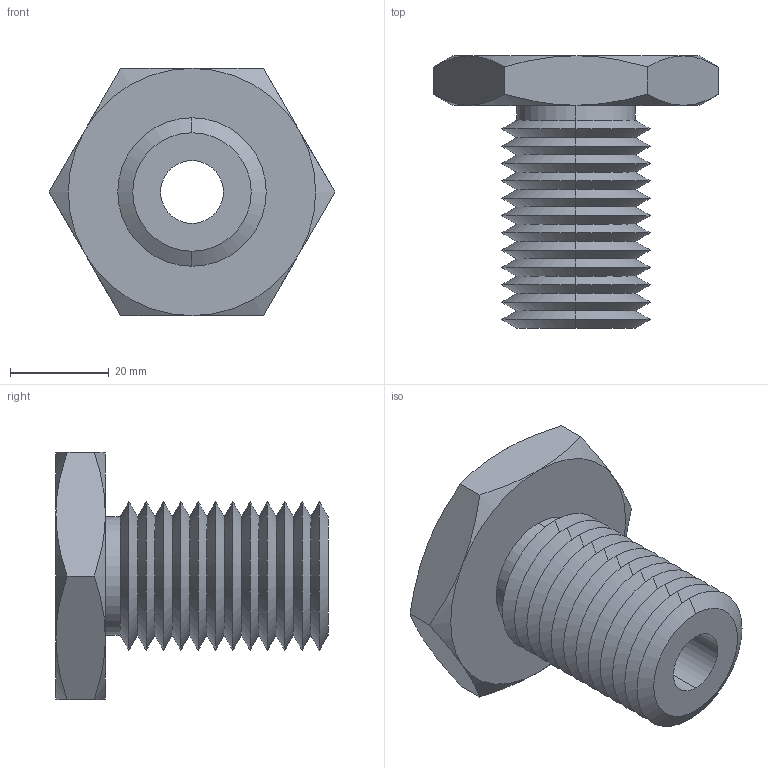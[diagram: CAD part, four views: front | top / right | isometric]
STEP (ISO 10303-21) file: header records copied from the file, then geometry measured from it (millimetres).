
FILE_DESCRIPTION (( 'STEP AP203' ), '1' );
FILE_NAME ('63302.W0030_0,50 UNC-13.step', '2013-12-08T11:07:31', ( 'User' ), ( '' ), 'SwSTEP 2.0', 'SolidWorks 2009', '' );
FILE_SCHEMA (( 'CONFIG_CONTROL_DESIGN' ));
Length unit declared in the file: millimetre
Products named in the file (1): 63302.W0030_0,50 UNC-13
Bounding box: 57.73 x 55 x 50 mm (x, y, z)
Volume: 39771.1 mm3; surface area: 15102.1 mm2
Topology: 1 solids, 1 shells, 75 faces, 154 edges, 82 vertices
Faces by surface type: cone 62, plane 9, cylinder 4
Entity records: 2139 total; most frequent: CARTESIAN_POINT 496, DIRECTION 352, ORIENTED_EDGE 308, EDGE_CURVE 154, AXIS2_PLACEMENT_3D 146, VERTEX_POINT 82, EDGE_LOOP 78, ADVANCED_FACE 75
